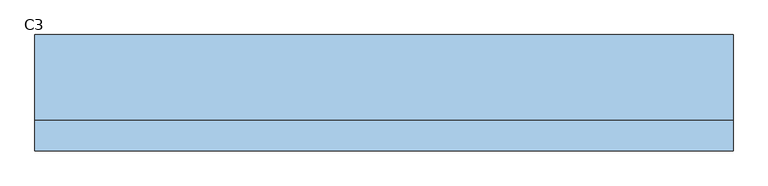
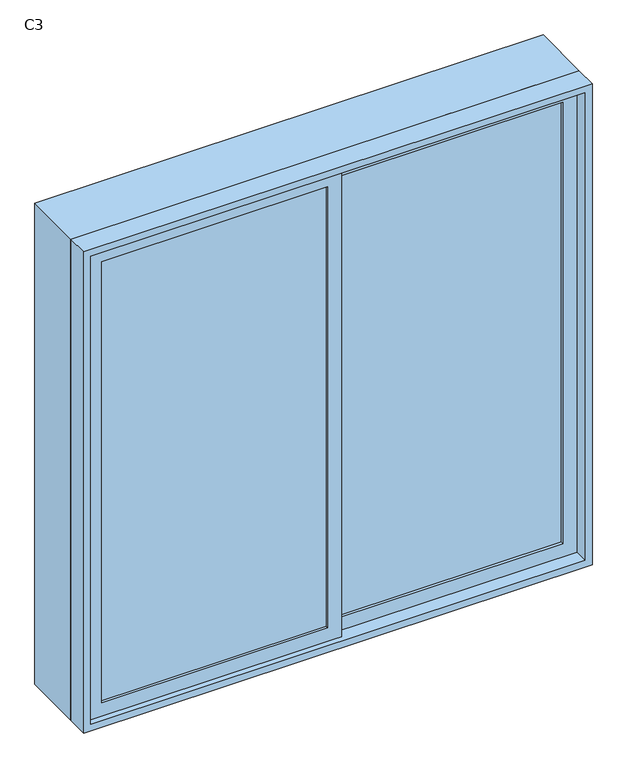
"""IFC4 building model written with IfcOpenShell, lengths in millimetres: window geometry, 推拉窗6 : C3."""

from ifc_helpers import new_model, si_unit, frame, origin, place, context, project, spatial, polyline, outline, extrude, source, transform, mapped, element, save


def c3_8dbe8f69(model_context):
    return source(origin(), model_context, "Body", "SweptSolid", [
        extrude(outline(polyline([(-815.475, -53.1265625), (-815.475, -43.1265625), (-15.475, -43.1265625), (-15.475, -53.1265625), (-815.475, -53.1265625)])), frame((0.0, 0.0, 975.0), z_axis=(0.0, 0.0, 1.0), x_axis=(1.0, 0.0, 0.0)), (0.0, 0.0, 1.0), 1650.0),
        extrude(outline(polyline([(34.525, -23.1265625), (34.525, -13.1265625), (834.525, -13.1265625), (834.525, -23.1265625), (34.525, -23.1265625)])), frame((0.0, 0.0, 975.0), z_axis=(0.0, 0.0, 1.0), x_axis=(1.0, 0.0, 0.0)), (0.0, 0.0, 1.0), 1650.0),
        extrude(outline(polyline([(2700.0, -890.475), (900.0, -890.475), (900.0, 909.525), (2700.0, 909.525), (2700.0, -890.475)]), holes=[polyline([(2645.0, 859.525), (955.0, 859.525), (955.0, -840.475), (2645.0, -840.475), (2645.0, 859.525)])]), frame((0.0, -3.1265625, 0.0), z_axis=(0.0, 1.0, 0.0), x_axis=(0.0, 0.0, 1.0)), (0.0, 0.0, 1.0), 220.0),
        extrude(outline(polyline([(925.0, 34.525), (2675.0, 34.525), (2675.0, -865.475), (925.0, -865.475), (925.0, 34.525)]), holes=[polyline([(975.0, -15.475), (975.0, -815.475), (2625.0, -815.475), (2625.0, -15.475), (975.0, -15.475)])]), frame((0.0, -63.1265625, 0.0), z_axis=(0.0, 1.0, 0.0), x_axis=(0.0, 0.0, 1.0)), (0.0, 0.0, 1.0), 30.0),
        extrude(outline(polyline([(2675.0, -15.475), (925.0, -15.475), (925.0, 884.525), (2675.0, 884.525), (2675.0, -15.475)]), holes=[polyline([(2625.0, 34.525), (2625.0, 834.525), (975.0, 834.525), (975.0, 34.525), (2625.0, 34.525)])]), frame((0.0, -33.1265625, 0.0), z_axis=(0.0, 1.0, 0.0), x_axis=(0.0, 0.0, 1.0)), (0.0, 0.0, 1.0), 30.0),
        extrude(outline(polyline([(2700.0, -890.475), (900.0, -890.475), (900.0, 909.525), (2700.0, 909.525), (2700.0, -890.475)]), holes=[polyline([(925.0, -865.475), (2675.0, -865.475), (2675.0, 884.525), (925.0, 884.525), (925.0, -865.475)])]), frame((0.0, -83.1265625, 0.0), z_axis=(0.0, 1.0, 0.0), x_axis=(0.0, 0.0, 1.0)), (0.0, 0.0, 1.0), 80.0),
    ])


if __name__ == "__main__":
    model = new_model("IFC4")
    model_context = context("Model", 3, world=origin())
    ifc_project = project(units=[si_unit("LENGTHUNIT", "METRE", prefix="MILLI")], contexts=[model_context])
    site = spatial("IfcSite", under=ifc_project)
    building = spatial("IfcBuilding", under=site)
    placement = place(None, origin())
    c3_shape = c3_8dbe8f69(model_context)
    element("IfcWindow", 1, ObjectType="推拉窗6 : C3", at=placement, inside=building, context=model_context, shape_type="MappedRepresentation", body=[
        mapped(c3_shape, transform((0.0, 0.0, 0.0), x_axis=(1.0, 0.0, 0.0), y_axis=(0.0, 1.0, 0.0), z_axis=(0.0, 0.0, 1.0))),
    ])
    save(model, "model.ifc")
